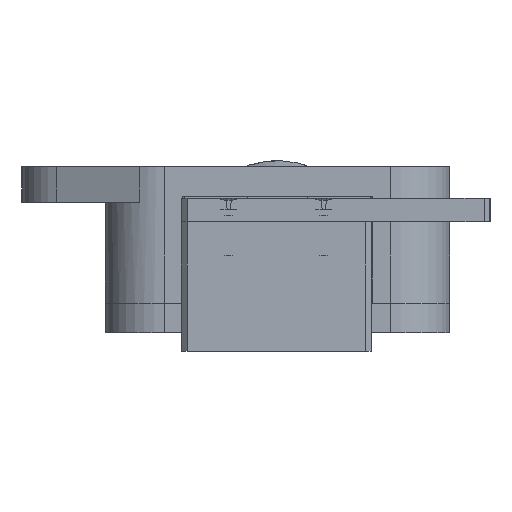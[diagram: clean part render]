
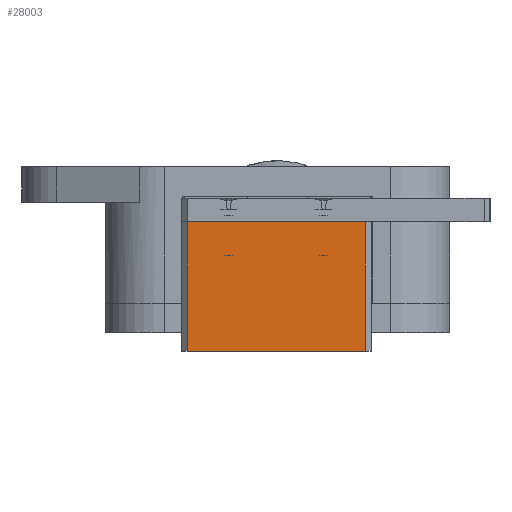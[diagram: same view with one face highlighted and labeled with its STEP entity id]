
A CAD part, front view. The second image highlights one B-rep face of the part: STEP entity #28003.
In plain terms, the highlighted planar face has unit normal (0, -1, 0).
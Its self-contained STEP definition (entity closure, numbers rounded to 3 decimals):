
#7389 = VERTEX_POINT ( 'NONE', #7461 ) ;
#7461 = CARTESIAN_POINT ( 'NONE',  ( -8.107, -8.094, 2.85 ) ) ;
#20961 = DIRECTION ( 'NONE',  ( -1., 0., 0. ) ) ;
#20962 = VECTOR ( 'NONE', #20961, 1000. ) ;
#20963 = CARTESIAN_POINT ( 'NONE',  ( 7.393, -8.094, 2.85 ) ) ;
#20964 = LINE ( 'NONE', #20963, #20962 ) ;
#20965 = CARTESIAN_POINT ( 'NONE',  ( 6.893, -8.094, 2.85 ) ) ;
#21428 = CARTESIAN_POINT ( 'NONE',  ( -8.107, -8.094, -8.05 ) ) ;
#21429 = DIRECTION ( 'NONE',  ( -1., 0., 0. ) ) ;
#21430 = VECTOR ( 'NONE', #21429, 1000. ) ;
#21431 = CARTESIAN_POINT ( 'NONE',  ( 7.393, -8.094, -8.05 ) ) ;
#21432 = LINE ( 'NONE', #21431, #21430 ) ;
#21433 = CARTESIAN_POINT ( 'NONE',  ( 6.893, -8.094, -8.05 ) ) ;
#21486 = FACE_OUTER_BOUND ( 'NONE', #28004, .T. ) ;
#21514 = DIRECTION ( 'NONE',  ( 0., 0., 1. ) ) ;
#21515 = VECTOR ( 'NONE', #21514, 1000. ) ;
#21516 = CARTESIAN_POINT ( 'NONE',  ( 6.893, -8.094, -8.05 ) ) ;
#21517 = LINE ( 'NONE', #21516, #21515 ) ;
#21518 = DIRECTION ( 'NONE',  ( 0., 0., -1. ) ) ;
#21519 = DIRECTION ( 'NONE',  ( 0., 1., 0. ) ) ;
#21520 = CARTESIAN_POINT ( 'NONE',  ( 7.393, -8.094, -8.05 ) ) ;
#21521 = AXIS2_PLACEMENT_3D ( 'NONE', #21520, #21519, #21518 ) ;
#21522 = PLANE ( 'NONE',  #21521 ) ;
#21712 = DIRECTION ( 'NONE',  ( 0., 0., -1. ) ) ;
#21713 = VECTOR ( 'NONE', #21712, 1000. ) ;
#21714 = CARTESIAN_POINT ( 'NONE',  ( -8.107, -8.094, -8.05 ) ) ;
#21716 = LINE ( 'NONE', #21714, #21713 ) ;
#27821 = VERTEX_POINT ( 'NONE', #20965 ) ;
#27823 = EDGE_CURVE ( 'NONE', #27821, #7389, #20964, .T. ) ;
#27981 = VERTEX_POINT ( 'NONE', #21433 ) ;
#27983 = EDGE_CURVE ( 'NONE', #27981, #27984, #21432, .T. ) ;
#27984 = VERTEX_POINT ( 'NONE', #21428 ) ;
#28003 = ADVANCED_FACE ( 'NONE', ( #21486 ), #21522, .F. ) ;
#28004 = EDGE_LOOP ( 'NONE', ( #28005, #28006, #28064, #28065 ) ) ;
#28005 = ORIENTED_EDGE ( 'NONE', *, *, #27983, .F. ) ;
#28006 = ORIENTED_EDGE ( 'NONE', *, *, #28007, .T. ) ;
#28007 = EDGE_CURVE ( 'NONE', #27981, #27821, #21517, .T. ) ;
#28064 = ORIENTED_EDGE ( 'NONE', *, *, #27823, .T. ) ;
#28065 = ORIENTED_EDGE ( 'NONE', *, *, #28066, .T. ) ;
#28066 = EDGE_CURVE ( 'NONE', #7389, #27984, #21716, .T. ) ;
